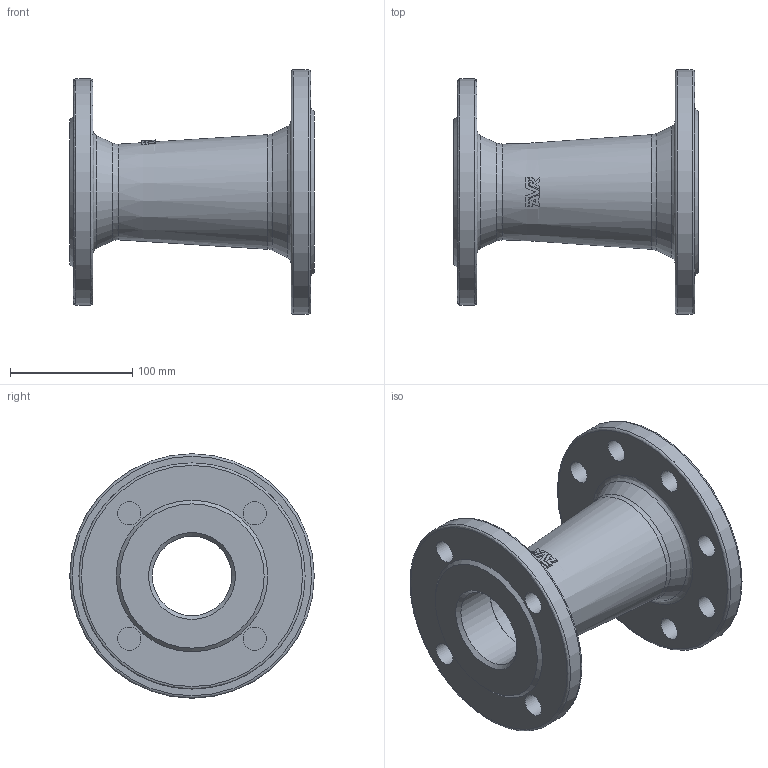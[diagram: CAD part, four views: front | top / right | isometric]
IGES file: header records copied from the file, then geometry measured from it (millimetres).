
Start section: SolidWorks IGES file using analytic representation for surfaces
Global section: file name: \\avksan2\techshare\PBM outline export from Enovia\O_712_2210_DN80_DN65_1X_REV01.igs; native system: SolidWorks 2022; preprocessor: SolidWorks 2022; author: pbm; date: 240807.125212; units: millimetre
Bounding box: 200 x 200 x 200 mm (x, y, z)
Surface area: 204977.3 mm2 (no closed solid volume)
Topology: 0 solids, 0 shells, 81 faces, 392 edges, 358 vertices
Faces by surface type: bspline 41, revolution 40
